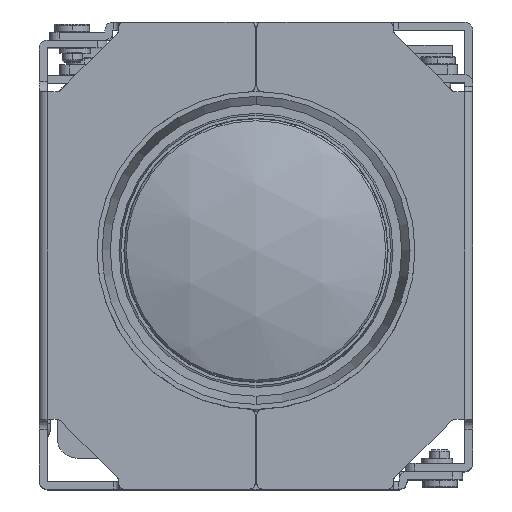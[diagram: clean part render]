
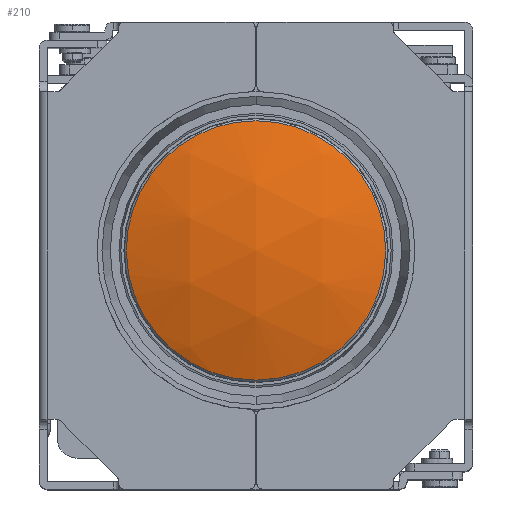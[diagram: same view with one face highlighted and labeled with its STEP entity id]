
A CAD part, top view. The second image highlights one B-rep face of the part: STEP entity #210.
In plain terms, the highlighted spherical face has radius 38.12 mm.
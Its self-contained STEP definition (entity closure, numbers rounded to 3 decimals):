
#123=CARTESIAN_POINT('',(-54.696,0.,0.));
#124=DIRECTION('',(1.,0.,0.));
#125=DIRECTION('',(0.,-0.012,1.));
#126=AXIS2_PLACEMENT_3D('',#123,#124,#125);
#128=CARTESIAN_POINT('',(-54.696,0.,0.));
#129=DIRECTION('',(1.,0.,0.));
#130=DIRECTION('',(0.,-1.,0.));
#131=AXIS2_PLACEMENT_3D('',#128,#129,#130);
#133=CARTESIAN_POINT('',(-54.696,0.,0.));
#134=DIRECTION('',(1.,0.,0.));
#135=DIRECTION('',(0.,-0.012,-1.));
#136=AXIS2_PLACEMENT_3D('',#133,#134,#135);
#138=CARTESIAN_POINT('',(-54.696,0.,0.));
#139=DIRECTION('',(1.,0.,0.));
#140=DIRECTION('',(0.,1.,0.));
#141=AXIS2_PLACEMENT_3D('',#138,#139,#140);
#183=CARTESIAN_POINT('',(-54.696,-0.157,
13.049));
#184=CARTESIAN_POINT('',(-54.696,-13.05,0.));
#185=VERTEX_POINT('',#183);
#186=VERTEX_POINT('',#184);
#187=CARTESIAN_POINT('',(-54.696,-0.157,
-13.049));
#188=VERTEX_POINT('',#187);
#189=CARTESIAN_POINT('',(-54.696,13.05,0.));
#190=VERTEX_POINT('',#189);
#195=CARTESIAN_POINT('',(-18.88,0.,0.));
#196=DIRECTION('',(0.,0.,1.));
#197=DIRECTION('',(-1.,-0.004,0.));
#198=AXIS2_PLACEMENT_3D('',#195,#196,#197);
#199=SPHERICAL_SURFACE('',#198,38.12);
#201=ORIENTED_EDGE('',*,*,#200,.T.);
#203=ORIENTED_EDGE('',*,*,#202,.T.);
#205=ORIENTED_EDGE('',*,*,#204,.T.);
#207=ORIENTED_EDGE('',*,*,#206,.T.);
#208=EDGE_LOOP('',(#201,#203,#205,#207));
#209=FACE_OUTER_BOUND('',#208,.F.);
#127=CIRCLE('',#126,13.05);
#132=CIRCLE('',#131,13.05);
#137=CIRCLE('',#136,13.05);
#142=CIRCLE('',#141,13.05);
#200=EDGE_CURVE('',#185,#186,#127,.T.);
#202=EDGE_CURVE('',#186,#188,#132,.T.);
#204=EDGE_CURVE('',#188,#190,#137,.T.);
#206=EDGE_CURVE('',#190,#185,#142,.T.);
#210=ADVANCED_FACE('',(#209),#199,.T.);
